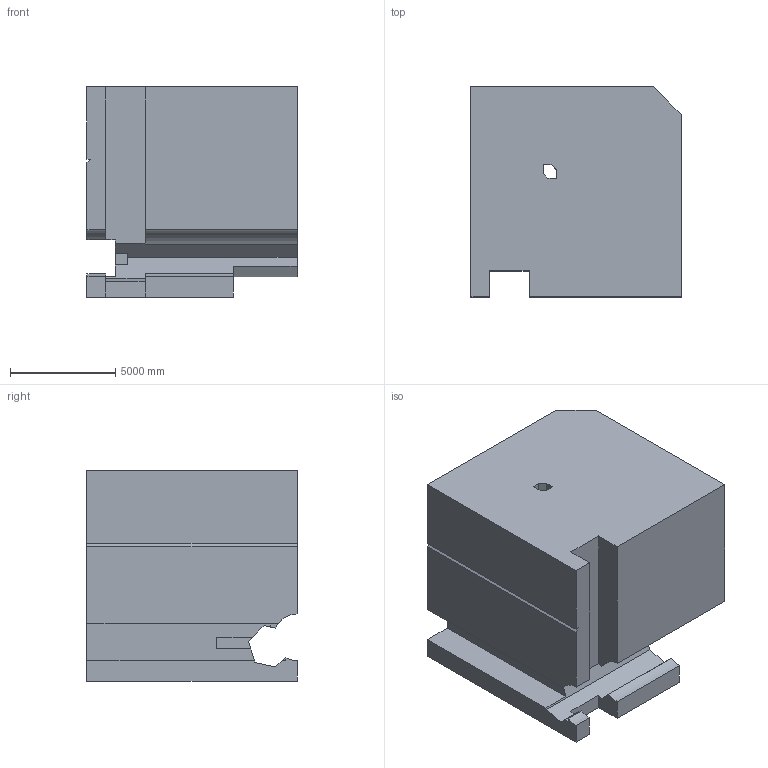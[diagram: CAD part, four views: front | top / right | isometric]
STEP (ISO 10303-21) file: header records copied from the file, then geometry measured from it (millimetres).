
FILE_DESCRIPTION (( 'STEP AP203' ), '1' );
FILE_NAME ('91.STEP', '2022-09-02T14:11:04', ( 'user' ), ( '' ), 'SwSTEP 2.0', 'SolidWorks 2021', '' );
FILE_SCHEMA (( 'CONFIG_CONTROL_DESIGN' ));
Length unit declared in the file: centimetre
Products named in the file (1): 91
Bounding box: 10000 x 10000 x 10000 mm (x, y, z)
Volume: 868053533363.8 mm3; surface area: 674192384.2 mm2
Topology: 1 solids, 1 shells, 51 faces, 144 edges, 96 vertices
Faces by surface type: plane 45, cylinder 6
Entity records: 1711 total; most frequent: CARTESIAN_POINT 292, ORIENTED_EDGE 288, DIRECTION 260, EDGE_CURVE 144, VECTOR 132, LINE 132, VERTEX_POINT 96, AXIS2_PLACEMENT_3D 64
